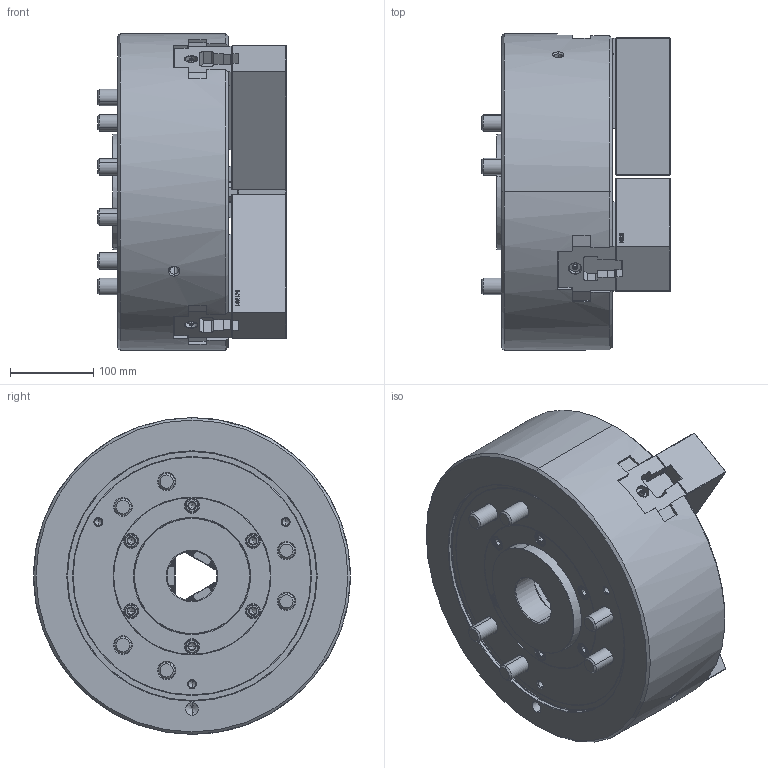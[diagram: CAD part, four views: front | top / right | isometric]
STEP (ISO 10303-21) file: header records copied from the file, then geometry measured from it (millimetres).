
FILE_DESCRIPTION (( 'STEP AP214' ), '1' );
FILE_NAME ('B-15_開端.STEP', '2025-04-03T09:51:16', ( '' ), ( '' ), 'SwSTEP 2.0', 'SolidWorks 2022', '' );
FILE_SCHEMA (( 'AUTOMOTIVE_DESIGN' ));
Length unit declared in the file: millimetre
Products named in the file (5): 61P303047; B-15_開端; 61P401172; Part33^B-15_61P260416; 0030120060
Assembly tree (13 placements, depth 2):
  B-15_開端
    61P303047  x3
    61P401172  x3
    0030120060  x6
    Part33^B-15_61P260416
Bounding box: 227 x 381 x 381 mm (x, y, z)
Volume: 15230116.6 mm3; surface area: 1036219.5 mm2
Topology: 14 solids, 42 shells, 7451 faces, 21459 edges, 14144 vertices
Faces by surface type: plane 4472, cylinder 2146, cone 480, bspline 297, torus 48, sphere 8
Entity records: 161507 total; most frequent: CARTESIAN_POINT 43884, ORIENTED_EDGE 27060, DIRECTION 21099, EDGE_CURVE 13530, VECTOR 9483, LINE 9483, VERTEX_POINT 8930, AXIS2_PLACEMENT_3D 5808
